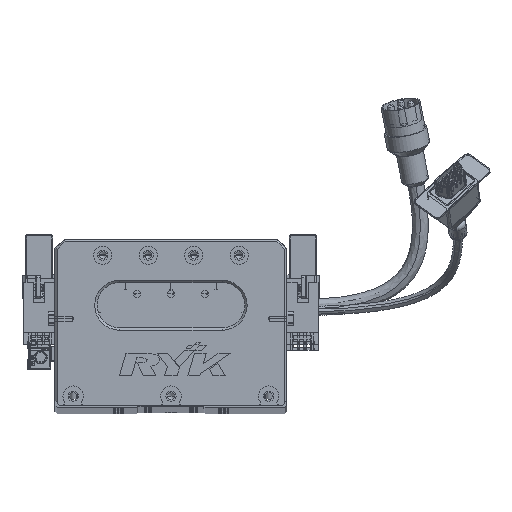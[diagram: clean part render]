
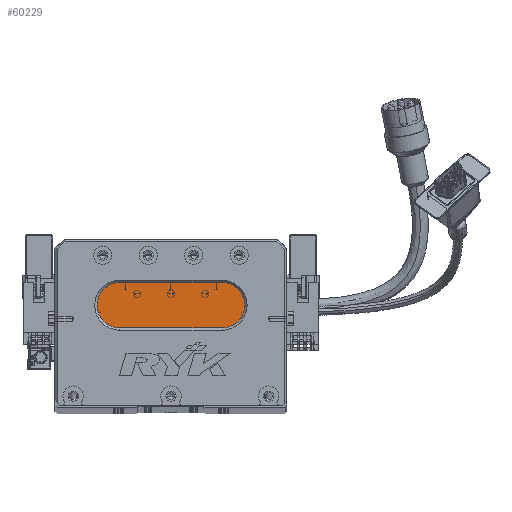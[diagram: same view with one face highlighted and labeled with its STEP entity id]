
A CAD part, top view. The second image highlights one B-rep face of the part: STEP entity #60229.
In plain terms, the highlighted planar face has unit normal (0, 0, 1) as drawn and (0, 0, -1) by its records, which use the part's own axes.
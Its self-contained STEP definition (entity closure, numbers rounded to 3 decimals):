
#479 = DIRECTION ( 'NONE',  ( -1., 0., 0. ) ) ;
#6785 = CARTESIAN_POINT ( 'NONE',  ( 28.5, 54., 13. ) ) ;
#7879 = DIRECTION ( 'NONE',  ( -1., 0., 0. ) ) ;
#9342 = DIRECTION ( 'NONE',  ( 1., 0., 0. ) ) ;
#11492 = DIRECTION ( 'NONE',  ( 0., 0., -1. ) ) ;
#13031 = EDGE_CURVE ( 'NONE', #28706, #29390, #62985, .T. ) ;
#13192 = DIRECTION ( 'NONE',  ( 0., 0., -1. ) ) ;
#14506 = CARTESIAN_POINT ( 'NONE',  ( 28.5, 44., 13. ) ) ;
#17589 = DIRECTION ( 'NONE',  ( -1., 0., 0. ) ) ;
#19064 = DIRECTION ( 'NONE',  ( -1., 0., 0. ) ) ;
#20075 = AXIS2_PLACEMENT_3D ( 'NONE', #22971, #11492, #17589 ) ;
#21596 = ORIENTED_EDGE ( 'NONE', *, *, #74456, .T. ) ;
#22255 = VECTOR ( 'NONE', #9342, 1000. ) ;
#22971 = CARTESIAN_POINT ( 'NONE',  ( 28.5, 44., 13. ) ) ;
#24249 = DIRECTION ( 'NONE',  ( 0., 0., -1. ) ) ;
#24576 = VERTEX_POINT ( 'NONE', #6785 ) ;
#25246 = CARTESIAN_POINT ( 'NONE',  ( 73.5, 34., 13. ) ) ;
#26974 = ORIENTED_EDGE ( 'NONE', *, *, #13031, .T. ) ;
#27008 = AXIS2_PLACEMENT_3D ( 'NONE', #14506, #49365, #27016 ) ;
#27016 = DIRECTION ( 'NONE',  ( -1., 0., 0. ) ) ;
#28706 = VERTEX_POINT ( 'NONE', #69365 ) ;
#29390 = VERTEX_POINT ( 'NONE', #37503 ) ;
#29441 = VERTEX_POINT ( 'NONE', #36980 ) ;
#36063 = LINE ( 'NONE', #25246, #65387 ) ;
#36980 = CARTESIAN_POINT ( 'NONE',  ( 28.5, 34., 13. ) ) ;
#37503 = CARTESIAN_POINT ( 'NONE',  ( 73.5, 34., 13. ) ) ;
#37869 = LINE ( 'NONE', #68264, #22255 ) ;
#43190 = CARTESIAN_POINT ( 'NONE',  ( 73.5, 44., 13. ) ) ;
#43545 = FACE_OUTER_BOUND ( 'NONE', #57632, .T. ) ;
#45469 = CIRCLE ( 'NONE', #20075, 10. ) ;
#46909 = EDGE_CURVE ( 'NONE', #64838, #24576, #48817, .T. ) ;
#47919 = AXIS2_PLACEMENT_3D ( 'NONE', #71420, #24249, #479 ) ;
#48817 = CIRCLE ( 'NONE', #27008, 10. ) ;
#49365 = DIRECTION ( 'NONE',  ( 0., 0., -1. ) ) ;
#53330 = ORIENTED_EDGE ( 'NONE', *, *, #53885, .T. ) ;
#53885 = EDGE_CURVE ( 'NONE', #29441, #64838, #45469, .T. ) ;
#56797 = AXIS2_PLACEMENT_3D ( 'NONE', #43190, #13192, #19064 ) ;
#57323 = CARTESIAN_POINT ( 'NONE',  ( 18.5, 44., 13. ) ) ;
#57632 = EDGE_LOOP ( 'NONE', ( #26974, #21596, #53330, #65266, #67684 ) ) ;
#60229 = ADVANCED_FACE ( 'NONE', ( #43545 ), #65808, .T. ) ;
#62985 = CIRCLE ( 'NONE', #56797, 10. ) ;
#64838 = VERTEX_POINT ( 'NONE', #57323 ) ;
#65266 = ORIENTED_EDGE ( 'NONE', *, *, #46909, .T. ) ;
#65387 = VECTOR ( 'NONE', #7879, 1000. ) ;
#65808 = PLANE ( 'NONE',  #47919 ) ;
#67684 = ORIENTED_EDGE ( 'NONE', *, *, #69333, .T. ) ;
#68264 = CARTESIAN_POINT ( 'NONE',  ( 73.5, 54., 13. ) ) ;
#69333 = EDGE_CURVE ( 'NONE', #24576, #28706, #37869, .T. ) ;
#69365 = CARTESIAN_POINT ( 'NONE',  ( 73.5, 54., 13. ) ) ;
#71420 = CARTESIAN_POINT ( 'NONE',  ( 73.5, 44., 13. ) ) ;
#74456 = EDGE_CURVE ( 'NONE', #29390, #29441, #36063, .T. ) ;
